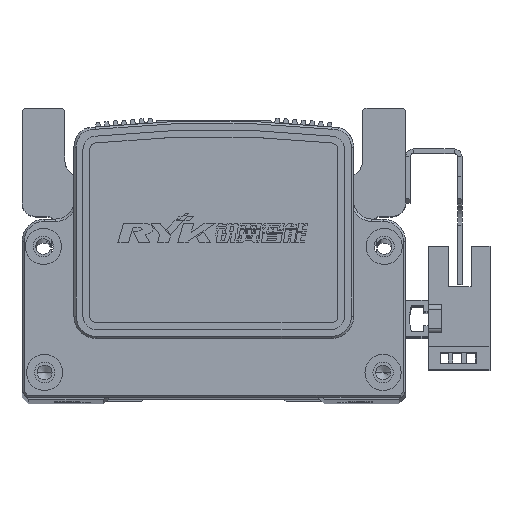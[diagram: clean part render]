
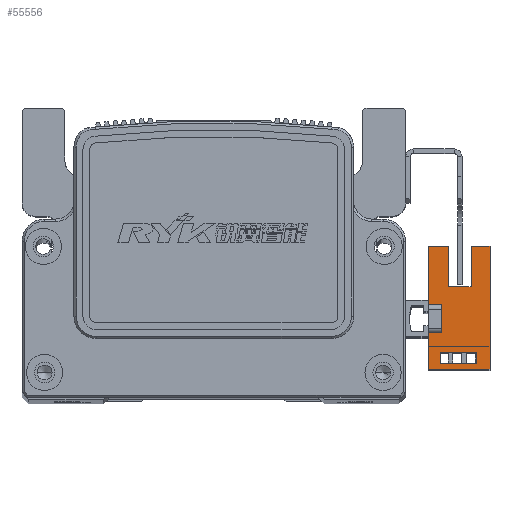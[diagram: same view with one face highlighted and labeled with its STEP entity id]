
A CAD part, top view. The second image highlights one B-rep face of the part: STEP entity #55556.
In plain terms, the highlighted planar face has unit normal (0, 0, 1) as drawn and (1, 0, 0) by its records, which use the part's own axes.
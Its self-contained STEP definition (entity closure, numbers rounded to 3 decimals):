
#6638 = VECTOR ( 'NONE', #41194, 1000. ) ;
#6653 = LINE ( 'NONE', #41202, #6638 ) ;
#6703 = LINE ( 'NONE', #41265, #6704 ) ;
#6704 = VECTOR ( 'NONE', #41267, 1000. ) ;
#6750 = LINE ( 'NONE', #41380, #6783 ) ;
#6752 = LINE ( 'NONE', #41424, #6777 ) ;
#6755 = VECTOR ( 'NONE', #41435, 1000. ) ;
#6757 = LINE ( 'NONE', #41421, #6775 ) ;
#6763 = LINE ( 'NONE', #41425, #6779 ) ;
#6768 = LINE ( 'NONE', #41431, #6755 ) ;
#6775 = VECTOR ( 'NONE', #41440, 1000. ) ;
#6777 = VECTOR ( 'NONE', #41417, 1000. ) ;
#6779 = VECTOR ( 'NONE', #41437, 1000. ) ;
#6783 = VECTOR ( 'NONE', #41381, 1000. ) ;
#6788 = VECTOR ( 'NONE', #41387, 1000. ) ;
#6802 = LINE ( 'NONE', #41371, #6788 ) ;
#6805 = LINE ( 'NONE', #41429, #6808 ) ;
#6808 = VECTOR ( 'NONE', #41428, 1000. ) ;
#6810 = VECTOR ( 'NONE', #41515, 1000. ) ;
#6819 = VECTOR ( 'NONE', #41499, 1000. ) ;
#6845 = LINE ( 'NONE', #41467, #6855 ) ;
#6852 = LINE ( 'NONE', #41513, #6862 ) ;
#6854 = LINE ( 'NONE', #41494, #6819 ) ;
#6855 = VECTOR ( 'NONE', #41483, 1000. ) ;
#6857 = LINE ( 'NONE', #41524, #6810 ) ;
#6862 = VECTOR ( 'NONE', #41508, 1000. ) ;
#6913 = LINE ( 'NONE', #41599, #6915 ) ;
#6915 = VECTOR ( 'NONE', #41625, 1000. ) ;
#6943 = LINE ( 'NONE', #41631, #6944 ) ;
#6944 = VECTOR ( 'NONE', #41638, 1000. ) ;
#6957 = LINE ( 'NONE', #41622, #6983 ) ;
#6983 = VECTOR ( 'NONE', #41644, 1000. ) ;
#10662 = AXIS2_PLACEMENT_3D ( 'NONE', #33409, #33410, #33411 ) ;
#21575 = CARTESIAN_POINT ( 'NONE',  ( 3.2, 16.1, -10.7 ) ) ;
#21582 = CARTESIAN_POINT ( 'NONE',  ( 3.2, 16.1, -6.5 ) ) ;
#33409 = CARTESIAN_POINT ( 'NONE',  ( 3.2, 16.1, -10.7 ) ) ;
#33410 = DIRECTION ( 'NONE',  ( 1., 0., 0. ) ) ;
#33411 = DIRECTION ( 'NONE',  ( 0., 1., 0. ) ) ;
#33436 = PLANE ( 'NONE',  #10662 ) ;
#37169 = VERTEX_POINT ( 'NONE', #21582 ) ;
#37174 = VERTEX_POINT ( 'NONE', #21575 ) ;
#38590 = EDGE_CURVE ( 'NONE', #39712, #39664, #6653, .T. ) ;
#38612 = EDGE_CURVE ( 'NONE', #37174, #37169, #6703, .T. ) ;
#38653 = EDGE_CURVE ( 'NONE', #39755, #39645, #6802, .T. ) ;
#38662 = EDGE_CURVE ( 'NONE', #39763, #39676, #6750, .T. ) ;
#38664 = EDGE_CURVE ( 'NONE', #39747, #37174, #6805, .T. ) ;
#38667 = EDGE_CURVE ( 'NONE', #39748, #39783, #6757, .T. ) ;
#38674 = EDGE_CURVE ( 'NONE', #39742, #39800, #6752, .T. ) ;
#38676 = EDGE_CURVE ( 'NONE', #39800, #39676, #6763, .T. ) ;
#38680 = EDGE_CURVE ( 'NONE', #39808, #39742, #6768, .T. ) ;
#38690 = EDGE_CURVE ( 'NONE', #39775, #39748, #6845, .T. ) ;
#38698 = EDGE_CURVE ( 'NONE', #39795, #39775, #6857, .T. ) ;
#38709 = EDGE_CURVE ( 'NONE', #39783, #39795, #6852, .T. ) ;
#38711 = EDGE_CURVE ( 'NONE', #39747, #39712, #6854, .T. ) ;
#38751 = EDGE_CURVE ( 'NONE', #37169, #39808, #6913, .T. ) ;
#38766 = EDGE_CURVE ( 'NONE', #39664, #39755, #6943, .T. ) ;
#38767 = EDGE_CURVE ( 'NONE', #39645, #39763, #6957, .T. ) ;
#39645 = VERTEX_POINT ( 'NONE', #48309 ) ;
#39664 = VERTEX_POINT ( 'NONE', #48394 ) ;
#39676 = VERTEX_POINT ( 'NONE', #48387 ) ;
#39712 = VERTEX_POINT ( 'NONE', #48370 ) ;
#39742 = VERTEX_POINT ( 'NONE', #48420 ) ;
#39747 = VERTEX_POINT ( 'NONE', #48446 ) ;
#39748 = VERTEX_POINT ( 'NONE', #48438 ) ;
#39755 = VERTEX_POINT ( 'NONE', #48430 ) ;
#39763 = VERTEX_POINT ( 'NONE', #48448 ) ;
#39775 = VERTEX_POINT ( 'NONE', #48451 ) ;
#39783 = VERTEX_POINT ( 'NONE', #48437 ) ;
#39795 = VERTEX_POINT ( 'NONE', #48407 ) ;
#39800 = VERTEX_POINT ( 'NONE', #48412 ) ;
#39808 = VERTEX_POINT ( 'NONE', #48502 ) ;
#41194 = DIRECTION ( 'NONE',  ( 0., 1., 0. ) ) ;
#41202 = CARTESIAN_POINT ( 'NONE',  ( 3.2, 16.1, 3. ) ) ;
#41265 = CARTESIAN_POINT ( 'NONE',  ( 3.2, 16.1, -10.7 ) ) ;
#41267 = DIRECTION ( 'NONE',  ( 0., 0., 1. ) ) ;
#41371 = CARTESIAN_POINT ( 'NONE',  ( 3.2, 0., 0. ) ) ;
#41380 = CARTESIAN_POINT ( 'NONE',  ( 3.2, 16.1, 3. ) ) ;
#41381 = DIRECTION ( 'NONE',  ( 0., 1., 0. ) ) ;
#41387 = DIRECTION ( 'NONE',  ( 0., 1., 0. ) ) ;
#41417 = DIRECTION ( 'NONE',  ( 0., 1., 0. ) ) ;
#41421 = CARTESIAN_POINT ( 'NONE',  ( 3.2, 16.1, 0.3 ) ) ;
#41424 = CARTESIAN_POINT ( 'NONE',  ( 3.2, 25.1, -1.5 ) ) ;
#41425 = CARTESIAN_POINT ( 'NONE',  ( 3.2, 16.1, -10.7 ) ) ;
#41428 = DIRECTION ( 'NONE',  ( 0., 1., 0. ) ) ;
#41429 = CARTESIAN_POINT ( 'NONE',  ( 3.2, 16.1, -10.7 ) ) ;
#41431 = CARTESIAN_POINT ( 'NONE',  ( 3.2, 7.1, -6.5 ) ) ;
#41435 = DIRECTION ( 'NONE',  ( 0., 0., 1. ) ) ;
#41437 = DIRECTION ( 'NONE',  ( 0., 0., 1. ) ) ;
#41440 = DIRECTION ( 'NONE',  ( 0., -1., 0. ) ) ;
#41467 = CARTESIAN_POINT ( 'NONE',  ( 3.2, -7.33, -10.7 ) ) ;
#41483 = DIRECTION ( 'NONE',  ( 0., 0., 1. ) ) ;
#41494 = CARTESIAN_POINT ( 'NONE',  ( 3.2, -11.1, 3. ) ) ;
#41499 = DIRECTION ( 'NONE',  ( 0., 0., 1. ) ) ;
#41508 = DIRECTION ( 'NONE',  ( 0., 0., -1. ) ) ;
#41513 = CARTESIAN_POINT ( 'NONE',  ( 3.2, -9.83, -10.7 ) ) ;
#41515 = DIRECTION ( 'NONE',  ( 0., 1., 0. ) ) ;
#41524 = CARTESIAN_POINT ( 'NONE',  ( 3.2, 16.1, -7.7 ) ) ;
#41599 = CARTESIAN_POINT ( 'NONE',  ( 3.2, 25.1, -6.5 ) ) ;
#41622 = CARTESIAN_POINT ( 'NONE',  ( 3.2, 3.1, 3. ) ) ;
#41625 = DIRECTION ( 'NONE',  ( 0., -1., 0. ) ) ;
#41631 = CARTESIAN_POINT ( 'NONE',  ( 3.2, -3.1, 3. ) ) ;
#41638 = DIRECTION ( 'NONE',  ( 0., 0., -1. ) ) ;
#41644 = DIRECTION ( 'NONE',  ( 0., 0., 1. ) ) ;
#43917 = FACE_OUTER_BOUND ( 'NONE', #60985, .T. ) ;
#43919 = FACE_BOUND ( 'NONE', #60772, .T. ) ;
#48309 = CARTESIAN_POINT ( 'NONE',  ( 3.2, 3.1, 0. ) ) ;
#48370 = CARTESIAN_POINT ( 'NONE',  ( 3.2, -11.1, 3. ) ) ;
#48387 = CARTESIAN_POINT ( 'NONE',  ( 3.2, 16.1, 3. ) ) ;
#48394 = CARTESIAN_POINT ( 'NONE',  ( 3.2, -3.1, 3. ) ) ;
#48407 = CARTESIAN_POINT ( 'NONE',  ( 3.2, -9.83, -7.7 ) ) ;
#48412 = CARTESIAN_POINT ( 'NONE',  ( 3.2, 16.1, -1.5 ) ) ;
#48420 = CARTESIAN_POINT ( 'NONE',  ( 3.2, 7.1, -1.5 ) ) ;
#48430 = CARTESIAN_POINT ( 'NONE',  ( 3.2, -3.1, 0. ) ) ;
#48437 = CARTESIAN_POINT ( 'NONE',  ( 3.2, -9.83, 0.3 ) ) ;
#48438 = CARTESIAN_POINT ( 'NONE',  ( 3.2, -7.33, 0.3 ) ) ;
#48446 = CARTESIAN_POINT ( 'NONE',  ( 3.2, -11.1, -10.7 ) ) ;
#48448 = CARTESIAN_POINT ( 'NONE',  ( 3.2, 3.1, 3. ) ) ;
#48451 = CARTESIAN_POINT ( 'NONE',  ( 3.2, -7.33, -7.7 ) ) ;
#48502 = CARTESIAN_POINT ( 'NONE',  ( 3.2, 7.1, -6.5 ) ) ;
#55556 = ADVANCED_FACE ( 'NONE', ( #43917, #43919 ), #33436, .T. ) ;
#59124 = ORIENTED_EDGE ( 'NONE', *, *, #38767, .F. ) ;
#59128 = ORIENTED_EDGE ( 'NONE', *, *, #38653, .F. ) ;
#59144 = ORIENTED_EDGE ( 'NONE', *, *, #38662, .F. ) ;
#59150 = ORIENTED_EDGE ( 'NONE', *, *, #38766, .F. ) ;
#59164 = ORIENTED_EDGE ( 'NONE', *, *, #38667, .F. ) ;
#59166 = ORIENTED_EDGE ( 'NONE', *, *, #38698, .F. ) ;
#59182 = ORIENTED_EDGE ( 'NONE', *, *, #38711, .F. ) ;
#59202 = ORIENTED_EDGE ( 'NONE', *, *, #38664, .T. ) ;
#59206 = ORIENTED_EDGE ( 'NONE', *, *, #38751, .T. ) ;
#59212 = ORIENTED_EDGE ( 'NONE', *, *, #38690, .F. ) ;
#59236 = ORIENTED_EDGE ( 'NONE', *, *, #38676, .T. ) ;
#59240 = ORIENTED_EDGE ( 'NONE', *, *, #38674, .T. ) ;
#59284 = ORIENTED_EDGE ( 'NONE', *, *, #38709, .F. ) ;
#59290 = ORIENTED_EDGE ( 'NONE', *, *, #38680, .T. ) ;
#59366 = ORIENTED_EDGE ( 'NONE', *, *, #38612, .T. ) ;
#59376 = ORIENTED_EDGE ( 'NONE', *, *, #38590, .F. ) ;
#60772 = EDGE_LOOP ( 'NONE', ( #59164, #59212, #59166, #59284 ) ) ;
#60985 = EDGE_LOOP ( 'NONE', ( #59206, #59290, #59240, #59236, #59144, #59124, #59128, #59150, #59376, #59182, #59202, #59366 ) ) ;
